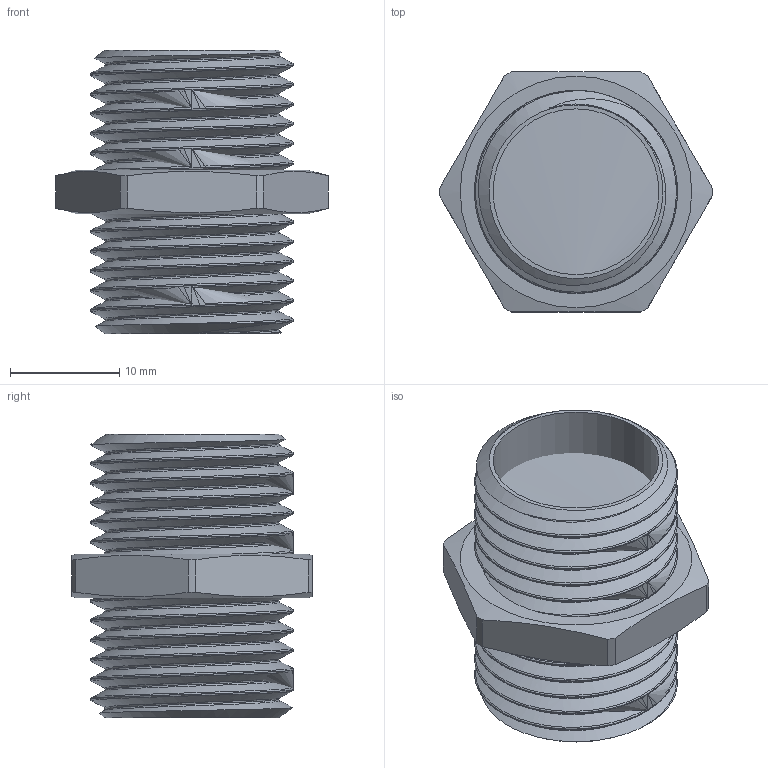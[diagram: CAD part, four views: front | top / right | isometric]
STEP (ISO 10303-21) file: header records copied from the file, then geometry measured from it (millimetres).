
FILE_DESCRIPTION(/* description */ (''),/* implementation_level */ '2;1');
FILE_NAME(/* name */ 'C:\Users\Doom\Desktop\Фадотех\Резьба\N01 18.03.2020\N01 18.03.2020.stp',/* time_stamp */ '2022-01-07T15:50:06+02:00',/* author */ ('Doom'),/* organization */ (''),/* preprocessor_version */ 'ST-DEVELOPER v18',/* originating_system */ 'Autodesk Inventor 2020',/* authorisation */ '');
FILE_SCHEMA (('AUTOMOTIVE_DESIGN { 1 0 10303 214 3 1 1 }'));
Length unit declared in the file: millimetre
Products named in the file (1): M21 17.03.2020
Bounding box: 25 x 22 x 26 mm (x, y, z)
Volume: 3763.9 mm3; surface area: 4605.9 mm2
Topology: 1 solids, 1 shells, 54 faces, 142 edges, 94 vertices
Faces by surface type: cylinder 24, bspline 12, plane 12, cone 6
Full cylindrical faces by diameter (mm): 15.2 x2, 18.6 x12
Entity records: 8676 total; most frequent: CARTESIAN_POINT 7468, ORIENTED_EDGE 284, DIRECTION 182, EDGE_CURVE 142, VERTEX_POINT 94, AXIS2_PLACEMENT_3D 75, B_SPLINE_CURVE_WITH_KNOTS 66, EDGE_LOOP 58
